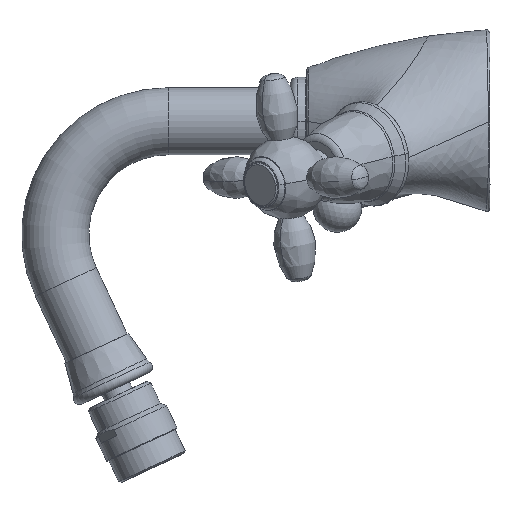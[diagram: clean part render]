
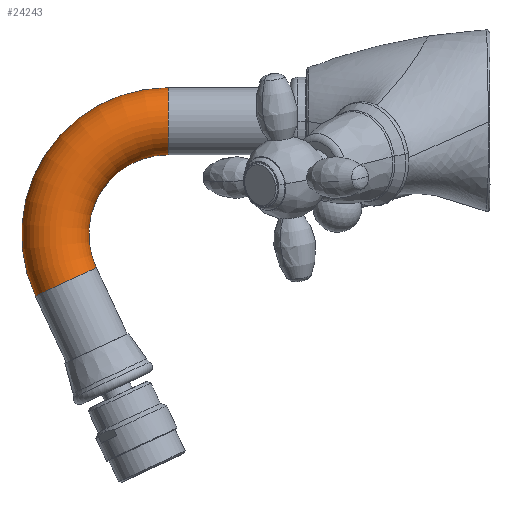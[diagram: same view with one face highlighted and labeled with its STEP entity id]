
A CAD part, left-side view. The second image highlights one B-rep face of the part: STEP entity #24243.
In plain terms, the highlighted toroidal (fillet/blend) face has major radius 37 mm and minor radius 11 mm.
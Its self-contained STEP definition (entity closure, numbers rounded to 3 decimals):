
#3488=CARTESIAN_POINT('',(0.,105.5,
0.));
#3489=DIRECTION('',(0.,1.,0.));
#3490=DIRECTION('',(0.,0.,-1.));
#3491=AXIS2_PLACEMENT_3D('',#3488,#3489,#3490);
#3493=CARTESIAN_POINT('',(0.,105.5,
-37.));
#3494=DIRECTION('',(-1.,0.,0.));
#3495=DIRECTION('',(0.,0.,1.));
#3496=AXIS2_PLACEMENT_3D('',#3493,#3494,#3495);
#3503=CARTESIAN_POINT('',(0.,105.5,
-37.));
#3504=DIRECTION('',(-1.,0.,0.));
#3505=DIRECTION('',(0.,0.,1.));
#3506=AXIS2_PLACEMENT_3D('',#3503,#3504,#3505);
#3867=CARTESIAN_POINT('',(0.,139.033,
-52.637));
#3868=DIRECTION('',(0.,-0.423,-0.906));
#3869=DIRECTION('',(0.,-0.906,0.423));
#3870=AXIS2_PLACEMENT_3D('',#3867,#3868,#3869);
#4576=CARTESIAN_POINT('',(0.,105.5,
11.));
#4577=CARTESIAN_POINT('',(0.,105.5,
-11.));
#4578=VERTEX_POINT('',#4576);
#4579=VERTEX_POINT('',#4577);
#4580=CARTESIAN_POINT('',(0.,149.003,
-57.286));
#4581=CARTESIAN_POINT('',(0.,129.064,
-47.988));
#4582=VERTEX_POINT('',#4580);
#4583=VERTEX_POINT('',#4581);
#24229=CARTESIAN_POINT('',(0.,105.5,
-37.));
#24230=DIRECTION('',(-1.,0.,0.));
#24231=DIRECTION('',(0.,0.,-1.));
#24232=AXIS2_PLACEMENT_3D('',#24229,#24230,#24231);
#24233=TOROIDAL_SURFACE('',#24232,37.,11.);
#24234=ORIENTED_EDGE('',*,*,#24223,.F.);
#24236=ORIENTED_EDGE('',*,*,#24235,.T.);
#24238=ORIENTED_EDGE('',*,*,#24237,.T.);
#24240=ORIENTED_EDGE('',*,*,#24239,.F.);
#24241=EDGE_LOOP('',(#24234,#24236,#24238,#24240));
#24242=FACE_OUTER_BOUND('',#24241,.F.);
#24243=ADVANCED_FACE('',(#24242),#24233,.T.);
#3492=CIRCLE('',#3491,11.);
#3497=CIRCLE('',#3496,26.);
#3507=CIRCLE('',#3506,48.);
#3871=CIRCLE('',#3870,11.);
#24223=EDGE_CURVE('',#4579,#4578,#3492,.T.);
#24235=EDGE_CURVE('',#4579,#4583,#3497,.T.);
#24237=EDGE_CURVE('',#4583,#4582,#3871,.T.);
#24239=EDGE_CURVE('',#4578,#4582,#3507,.T.);
